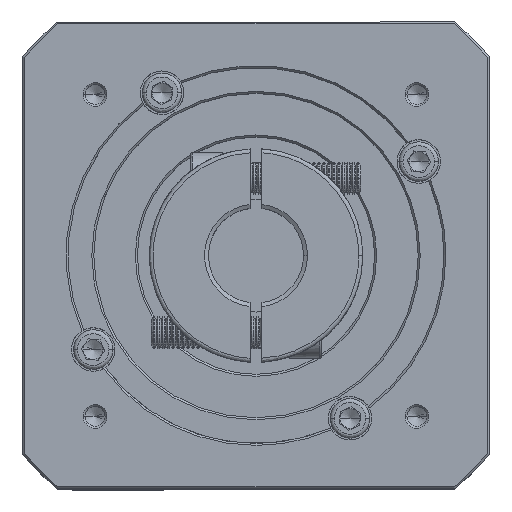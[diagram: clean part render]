
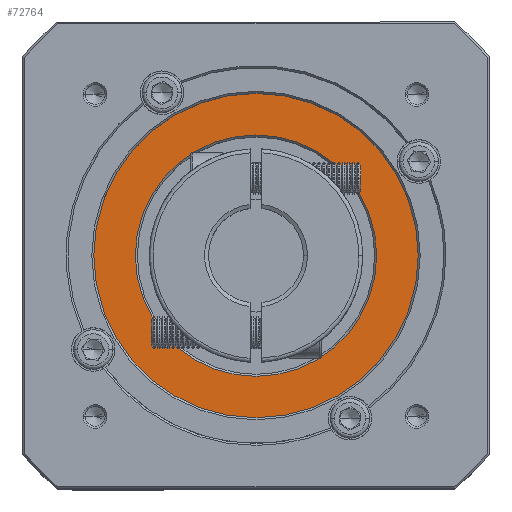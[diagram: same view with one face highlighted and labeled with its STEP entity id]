
A CAD part, top view. The second image highlights one B-rep face of the part: STEP entity #72764.
In plain terms, the highlighted planar face has unit normal (0, 0, 1).
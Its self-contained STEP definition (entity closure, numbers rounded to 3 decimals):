
#1663 = AXIS2_PLACEMENT_3D ( 'NONE', #63780, #4584, #28695 ) ;
#3367 = CIRCLE ( 'NONE', #84863, 30.5 ) ;
#4348 = DIRECTION ( 'NONE',  ( 0., 0., 1. ) ) ;
#4584 = DIRECTION ( 'NONE',  ( 0., 0., 1. ) ) ;
#4630 = CARTESIAN_POINT ( 'NONE',  ( 64.891, 125.363, 14.683 ) ) ;
#5707 = DIRECTION ( 'NONE',  ( 0., 0., -1. ) ) ;
#10132 = ORIENTED_EDGE ( 'NONE', *, *, #81936, .T. ) ;
#12070 = AXIS2_PLACEMENT_3D ( 'NONE', #92606, #5707, #73746 ) ;
#12934 = EDGE_CURVE ( 'NONE', #56661, #51386, #3367, .T. ) ;
#16072 = AXIS2_PLACEMENT_3D ( 'NONE', #64291, #4348, #63552 ) ;
#19564 = ORIENTED_EDGE ( 'NONE', *, *, #40513, .T. ) ;
#28695 = DIRECTION ( 'NONE',  ( 1., 0., 0. ) ) ;
#29764 = CARTESIAN_POINT ( 'NONE',  ( 23.891, 125.363, 14.683 ) ) ;
#32380 = CIRCLE ( 'NONE', #1663, 41. ) ;
#34140 = FACE_OUTER_BOUND ( 'NONE', #107317, .T. ) ;
#40513 = EDGE_CURVE ( 'NONE', #80613, #88885, #94530, .T. ) ;
#48702 = FACE_BOUND ( 'NONE', #56003, .T. ) ;
#51386 = VERTEX_POINT ( 'NONE', #92696 ) ;
#54062 = CARTESIAN_POINT ( 'NONE',  ( 105.891, 125.363, 14.683 ) ) ;
#54641 = PLANE ( 'NONE',  #66291 ) ;
#55389 = DIRECTION ( 'NONE',  ( 0., 0., -1. ) ) ;
#56003 = EDGE_LOOP ( 'NONE', ( #68406, #94218 ) ) ;
#56661 = VERTEX_POINT ( 'NONE', #73579 ) ;
#63552 = DIRECTION ( 'NONE',  ( 1., 0., 0. ) ) ;
#63780 = CARTESIAN_POINT ( 'NONE',  ( 64.891, 125.363, 14.683 ) ) ;
#64291 = CARTESIAN_POINT ( 'NONE',  ( 64.891, 125.363, 14.683 ) ) ;
#64975 = CIRCLE ( 'NONE', #12070, 30.5 ) ;
#66291 = AXIS2_PLACEMENT_3D ( 'NONE', #4630, #70897, #97102 ) ;
#68406 = ORIENTED_EDGE ( 'NONE', *, *, #12934, .T. ) ;
#70897 = DIRECTION ( 'NONE',  ( 0., 0., 1. ) ) ;
#72764 = ADVANCED_FACE ( 'NONE', ( #34140, #48702 ), #54641, .T. ) ;
#73579 = CARTESIAN_POINT ( 'NONE',  ( 95.391, 125.363, 14.683 ) ) ;
#73746 = DIRECTION ( 'NONE',  ( 1., 0., 0. ) ) ;
#77384 = CARTESIAN_POINT ( 'NONE',  ( 64.891, 125.363, 14.683 ) ) ;
#80613 = VERTEX_POINT ( 'NONE', #29764 ) ;
#81936 = EDGE_CURVE ( 'NONE', #88885, #80613, #32380, .T. ) ;
#84863 = AXIS2_PLACEMENT_3D ( 'NONE', #77384, #55389, #93533 ) ;
#85561 = EDGE_CURVE ( 'NONE', #51386, #56661, #64975, .T. ) ;
#88885 = VERTEX_POINT ( 'NONE', #54062 ) ;
#92606 = CARTESIAN_POINT ( 'NONE',  ( 64.891, 125.363, 14.683 ) ) ;
#92696 = CARTESIAN_POINT ( 'NONE',  ( 34.391, 125.363, 14.683 ) ) ;
#93533 = DIRECTION ( 'NONE',  ( 1., 0., 0. ) ) ;
#94218 = ORIENTED_EDGE ( 'NONE', *, *, #85561, .T. ) ;
#94530 = CIRCLE ( 'NONE', #16072, 41. ) ;
#97102 = DIRECTION ( 'NONE',  ( 1., 0., 0. ) ) ;
#107317 = EDGE_LOOP ( 'NONE', ( #10132, #19564 ) ) ;
